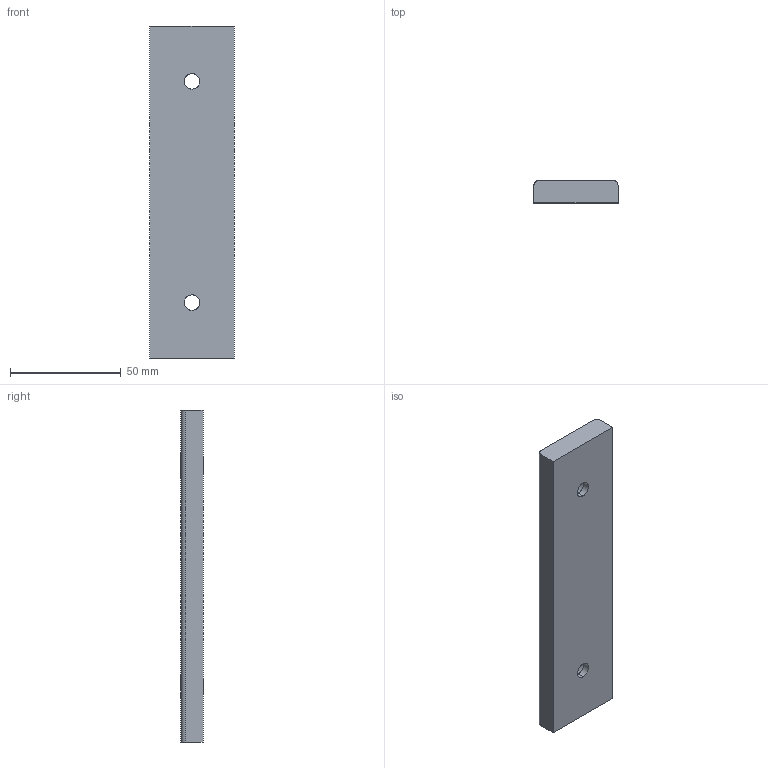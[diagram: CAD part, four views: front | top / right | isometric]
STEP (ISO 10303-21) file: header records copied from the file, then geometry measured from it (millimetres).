
FILE_DESCRIPTION(('CATIA V5 STEP Exchange'),'2;1');
FILE_NAME('C:\Users\Utente\Desktop\3D files A606\A606-038-150.stp','2020-04-13T18:05:10+00:00',('none'),('none'),'CATIA Version 5 Release 20 GA (IN-10)','CATIA V5 STEP AP203','none');
FILE_SCHEMA(('CONFIG_CONTROL_DESIGN'));
Length unit declared in the file: millimetre
Products named in the file (1): Noname
Bounding box: 38 x 10 x 150 mm (x, y, z)
Surface area: 15360.9 mm2 (no closed solid volume)
Topology: 0 solids, 14 shells, 18 faces, 76 edges, 68 vertices
Faces by surface type: cylinder 10, extrusion 8
Entity records: 1044 total; most frequent: CARTESIAN_POINT 415, DIRECTION 84, ORIENTED_EDGE 84, EDGE_CURVE 76, VERTEX_POINT 68, VECTOR 44, LINE 36, AXIS2_PLACEMENT_3D 31
